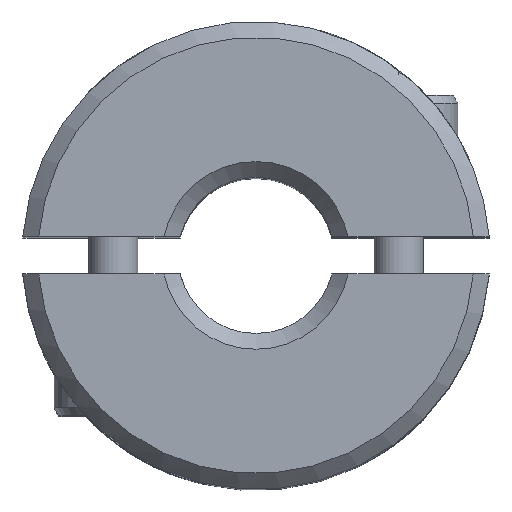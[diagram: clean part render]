
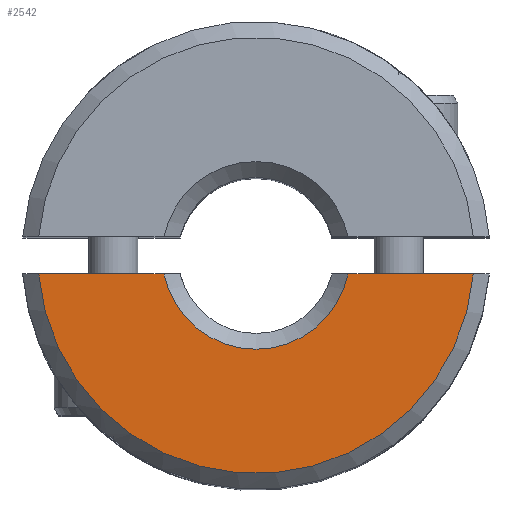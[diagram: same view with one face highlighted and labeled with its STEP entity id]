
A CAD part, top view. The second image highlights one B-rep face of the part: STEP entity #2542.
In plain terms, the highlighted planar face has unit normal (0, 0, 1).
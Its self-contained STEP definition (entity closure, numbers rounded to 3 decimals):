
#514=DIRECTION('',(1.,0.,0.));
#515=VECTOR('',#514,4.018);
#516=CARTESIAN_POINT('',(2.948,-0.595,11.));
#517=LINE('',#516,#515);
#658=CARTESIAN_POINT('',(-2.949,-0.595,11.));
#660=DIRECTION('',(-1.,0.,0.));
#661=VECTOR('',#660,4.018);
#662=CARTESIAN_POINT('',(-2.949,-0.595,11.));
#663=LINE('',#662,#661);
#684=CARTESIAN_POINT('',(0.,0.,11.));
#685=DIRECTION('',(0.,0.,-1.));
#686=DIRECTION('',(0.98,-0.198,0.));
#687=AXIS2_PLACEMENT_3D('',#684,#685,#686);
#694=CARTESIAN_POINT('',(-6.967,-0.595,11.));
#701=CARTESIAN_POINT('',(0.,0.,11.));
#702=DIRECTION('',(0.,0.,1.));
#703=DIRECTION('',(-0.996,-0.085,0.));
#704=AXIS2_PLACEMENT_3D('',#701,#702,#703);
#711=CARTESIAN_POINT('',(6.967,-0.595,11.));
#1526=VERTEX_POINT('',#694);
#1528=VERTEX_POINT('',#711);
#1597=VERTEX_POINT('',#658);
#1599=CARTESIAN_POINT('',(2.948,-0.595,11.));
#1600=VERTEX_POINT('',#1599);
#2530=CARTESIAN_POINT('',(0.,0.,11.));
#2531=DIRECTION('',(0.,0.,1.));
#2532=DIRECTION('',(-1.,0.,0.));
#2533=AXIS2_PLACEMENT_3D('',#2530,#2531,#2532);
#2534=PLANE('',#2533);
#2535=ORIENTED_EDGE('',*,*,#2517,.F.);
#2536=ORIENTED_EDGE('',*,*,#2271,.T.);
#2538=ORIENTED_EDGE('',*,*,#2537,.F.);
#2539=ORIENTED_EDGE('',*,*,#2483,.F.);
#2540=EDGE_LOOP('',(#2535,#2536,#2538,#2539));
#2541=FACE_OUTER_BOUND('',#2540,.F.);
#688=CIRCLE('',#687,3.008);
#705=CIRCLE('',#704,6.992);
#2271=EDGE_CURVE('',#1600,#1528,#517,.T.);
#2483=EDGE_CURVE('',#1597,#1526,#663,.T.);
#2517=EDGE_CURVE('',#1600,#1597,#688,.T.);
#2537=EDGE_CURVE('',#1526,#1528,#705,.T.);
#2542=ADVANCED_FACE('',(#2541),#2534,.T.);
